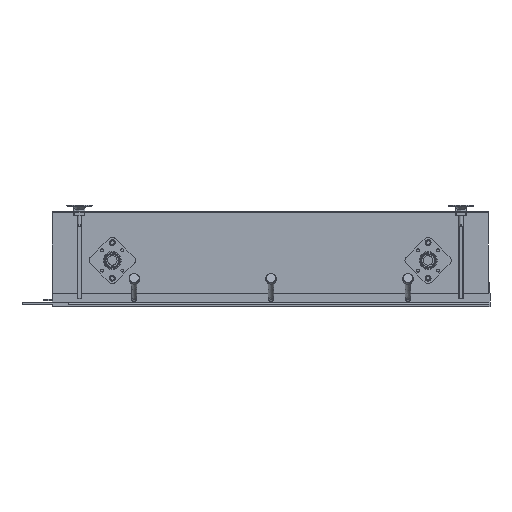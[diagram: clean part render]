
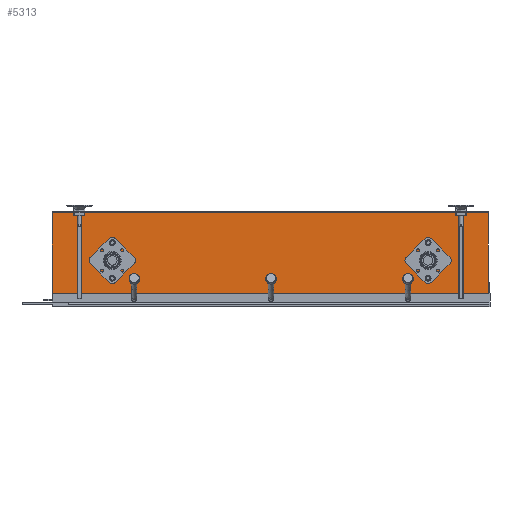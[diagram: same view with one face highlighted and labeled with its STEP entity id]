
A CAD part, left-side view. The second image highlights one B-rep face of the part: STEP entity #5313.
In plain terms, the highlighted planar face has unit normal (-1, 0, 0) as drawn and (0, 0, -1) by its records, which use the part's own axes.
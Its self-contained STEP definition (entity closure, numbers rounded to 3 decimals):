
#308=FACE_BOUND('',#1050,.T.);
#309=FACE_BOUND('',#1051,.T.);
#310=FACE_BOUND('',#1052,.T.);
#311=FACE_BOUND('',#1053,.T.);
#312=FACE_BOUND('',#1054,.T.);
#313=FACE_BOUND('',#1055,.T.);
#455=PLANE('',#5836);
#690=FACE_OUTER_BOUND('',#1049,.T.);
#1049=EDGE_LOOP('',(#4029,#4030,#4031,#4032));
#1050=EDGE_LOOP('',(#4033));
#1051=EDGE_LOOP('',(#4034));
#1052=EDGE_LOOP('',(#4035));
#1053=EDGE_LOOP('',(#4036));
#1054=EDGE_LOOP('',(#4037));
#1055=EDGE_LOOP('',(#4038));
#1491=LINE('',#8412,#1882);
#1506=LINE('',#8448,#1897);
#1509=LINE('',#8454,#1900);
#1510=LINE('',#8455,#1901);
#1882=VECTOR('',#6754,10.);
#1897=VECTOR('',#6793,10.);
#1900=VECTOR('',#6798,10.);
#1901=VECTOR('',#6799,10.);
#2274=CIRCLE('',#5805,1.5);
#2276=CIRCLE('',#5808,1.5);
#2278=CIRCLE('',#5811,1.5);
#2280=CIRCLE('',#5814,1.5);
#2282=CIRCLE('',#5817,11.);
#2284=CIRCLE('',#5820,11.);
#2564=VERTEX_POINT('',#8376);
#2566=VERTEX_POINT('',#8381);
#2568=VERTEX_POINT('',#8386);
#2570=VERTEX_POINT('',#8391);
#2572=VERTEX_POINT('',#8396);
#2574=VERTEX_POINT('',#8401);
#2578=VERTEX_POINT('',#8409);
#2579=VERTEX_POINT('',#8411);
#2588=VERTEX_POINT('',#8447);
#2590=VERTEX_POINT('',#8453);
#3108=EDGE_CURVE('',#2564,#2564,#2274,.T.);
#3110=EDGE_CURVE('',#2566,#2566,#2276,.T.);
#3112=EDGE_CURVE('',#2568,#2568,#2278,.T.);
#3114=EDGE_CURVE('',#2570,#2570,#2280,.T.);
#3116=EDGE_CURVE('',#2572,#2572,#2282,.T.);
#3118=EDGE_CURVE('',#2574,#2574,#2284,.T.);
#3122=EDGE_CURVE('',#2579,#2578,#1491,.T.);
#3140=EDGE_CURVE('',#2588,#2579,#1506,.T.);
#3143=EDGE_CURVE('',#2578,#2590,#1509,.T.);
#3144=EDGE_CURVE('',#2590,#2588,#1510,.T.);
#4029=ORIENTED_EDGE('',*,*,#3122,.T.);
#4030=ORIENTED_EDGE('',*,*,#3143,.T.);
#4031=ORIENTED_EDGE('',*,*,#3144,.T.);
#4032=ORIENTED_EDGE('',*,*,#3140,.T.);
#4033=ORIENTED_EDGE('',*,*,#3108,.T.);
#4034=ORIENTED_EDGE('',*,*,#3110,.T.);
#4035=ORIENTED_EDGE('',*,*,#3112,.T.);
#4036=ORIENTED_EDGE('',*,*,#3114,.T.);
#4037=ORIENTED_EDGE('',*,*,#3116,.T.);
#4038=ORIENTED_EDGE('',*,*,#3118,.T.);
#5313=ADVANCED_FACE('',(#690,#308,#309,#310,#311,#312,#313),#455,.F.);
#5805=AXIS2_PLACEMENT_3D('',#8377,#6715,#6716);
#5808=AXIS2_PLACEMENT_3D('',#8382,#6721,#6722);
#5811=AXIS2_PLACEMENT_3D('',#8387,#6727,#6728);
#5814=AXIS2_PLACEMENT_3D('',#8392,#6733,#6734);
#5817=AXIS2_PLACEMENT_3D('',#8397,#6739,#6740);
#5820=AXIS2_PLACEMENT_3D('',#8402,#6745,#6746);
#5836=AXIS2_PLACEMENT_3D('',#8452,#6796,#6797);
#6715=DIRECTION('center_axis',(0.,0.,1.));
#6716=DIRECTION('ref_axis',(-1.,0.,0.));
#6721=DIRECTION('center_axis',(0.,0.,1.));
#6722=DIRECTION('ref_axis',(-1.,0.,0.));
#6727=DIRECTION('center_axis',(0.,0.,1.));
#6728=DIRECTION('ref_axis',(-1.,0.,0.));
#6733=DIRECTION('center_axis',(0.,0.,1.));
#6734=DIRECTION('ref_axis',(-1.,0.,0.));
#6739=DIRECTION('center_axis',(0.,0.,1.));
#6740=DIRECTION('ref_axis',(-1.,0.,0.));
#6745=DIRECTION('center_axis',(0.,0.,1.));
#6746=DIRECTION('ref_axis',(-1.,0.,0.));
#6754=DIRECTION('',(1.,0.,0.));
#6793=DIRECTION('',(0.,1.,0.));
#6796=DIRECTION('center_axis',(0.,0.,1.));
#6797=DIRECTION('ref_axis',(1.,0.,0.));
#6798=DIRECTION('',(0.,-1.,0.));
#6799=DIRECTION('',(-1.,0.,0.));
#8376=CARTESIAN_POINT('',(111.5,-57.5,0.));
#8377=CARTESIAN_POINT('Origin',(110.,-57.5,0.));
#8381=CARTESIAN_POINT('',(688.5,-122.5,0.));
#8382=CARTESIAN_POINT('Origin',(687.,-122.5,0.));
#8386=CARTESIAN_POINT('',(688.5,-57.5,0.));
#8387=CARTESIAN_POINT('Origin',(687.,-57.5,0.));
#8391=CARTESIAN_POINT('',(111.5,-122.5,0.));
#8392=CARTESIAN_POINT('Origin',(110.,-122.5,0.));
#8396=CARTESIAN_POINT('',(698.,-90.,0.));
#8397=CARTESIAN_POINT('Origin',(687.,-90.,0.));
#8401=CARTESIAN_POINT('',(121.,-90.,0.));
#8402=CARTESIAN_POINT('Origin',(110.,-90.,0.));
#8409=CARTESIAN_POINT('',(797.,-3.,0.));
#8411=CARTESIAN_POINT('',(0.,-3.,0.));
#8412=CARTESIAN_POINT('',(199.25,-3.,0.));
#8447=CARTESIAN_POINT('',(0.,-150.,0.));
#8448=CARTESIAN_POINT('',(0.,-150.,0.));
#8452=CARTESIAN_POINT('Origin',(398.5,-75.,0.));
#8453=CARTESIAN_POINT('',(797.,-150.,0.));
#8454=CARTESIAN_POINT('',(797.,0.,0.));
#8455=CARTESIAN_POINT('',(797.,-150.,0.));
